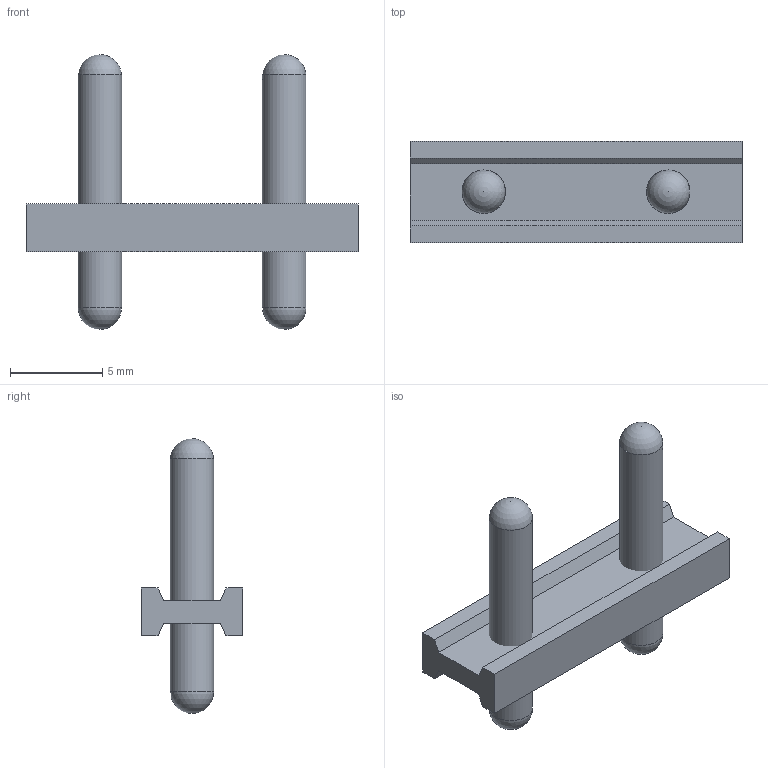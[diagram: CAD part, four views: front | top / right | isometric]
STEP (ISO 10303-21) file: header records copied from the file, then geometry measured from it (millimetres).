
FILE_DESCRIPTION(('FreeCAD Model'),'2;1');
FILE_NAME('Open CASCADE Shape Model','2025-11-23T23:16:17',('Author'),( ''),'Open CASCADE STEP processor 7.8','FreeCAD','Unknown');
FILE_SCHEMA(('AUTOMOTIVE_DESIGN_CC2 { 1 2 10303 214 -1 1 5 4 }'));
Length unit declared in the file: millimetre
Products named in the file (8): Unnamed; Pad; Cylindre; Cylindre001; Sphère; Sphère001; Sphère003; Sphère002
Assembly tree (7 placements, depth 2):
  Unnamed
    Pad
    Cylindre
    Cylindre001
    Sphère
    Sphère001
    Sphère003
    Sphère002
Bounding box: 18 x 5.5 x 14.9 mm (x, y, z)
Volume: 311.6 mm3; surface area: 618 mm2
Topology: 7 solids, 7 shells, 24 faces, 54 edges, 36 vertices
Faces by surface type: plane 18, sphere 4, cylinder 2
Full cylindrical faces by diameter (mm): 2.36 x2
Entity records: 1329 total; most frequent: DIRECTION 194, CARTESIAN_POINT 190, LINE 118, VECTOR 118, ORIENTED_EDGE 84, PCURVE 84, DEFINITIONAL_REPRESENTATION 84, EDGE_CURVE 42
